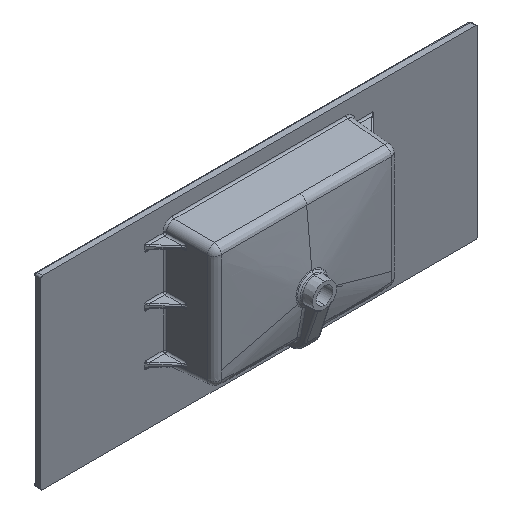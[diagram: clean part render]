
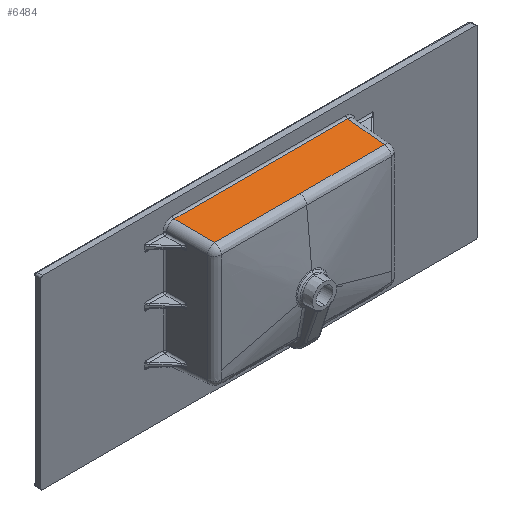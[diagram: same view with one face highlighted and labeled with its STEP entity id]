
A CAD part, isometric view. The second image highlights one B-rep face of the part: STEP entity #6484.
In plain terms, the highlighted planar face has unit normal (0, -0.052, 0.999).
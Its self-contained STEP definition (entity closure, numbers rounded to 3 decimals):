
#55 = AXIS2_PLACEMENT_3D ( 'NONE', #12898, #14367, #5364 ) ;
#57 = CARTESIAN_POINT ( 'NONE',  ( -187.028, -131.842, 208.104 ) ) ;
#182 = VERTEX_POINT ( 'NONE', #9492 ) ;
#1190 = CARTESIAN_POINT ( 'NONE',  ( 213.745, -131.714, 208.111 ) ) ;
#1235 = EDGE_CURVE ( 'NONE', #19137, #6876, #12952, .T. ) ;
#2342 = CARTESIAN_POINT ( 'NONE',  ( -240.041, -0.003, 215.014 ) ) ;
#2646 = CARTESIAN_POINT ( 'NONE',  ( 38.863, -131.909, 208.101 ) ) ;
#2836 = CARTESIAN_POINT ( 'NONE',  ( 155.452, -131.861, 208.103 ) ) ;
#2886 = EDGE_CURVE ( 'NONE', #5770, #182, #18364, .T. ) ;
#2933 = CARTESIAN_POINT ( 'NONE',  ( 77.726, -131.898, 208.101 ) ) ;
#2982 = CARTESIAN_POINT ( 'NONE',  ( -223.459, -131.459, 208.124 ) ) ;
#3174 = CARTESIAN_POINT ( 'NONE',  ( -155.452, -131.861, 208.103 ) ) ;
#3175 = B_SPLINE_CURVE_WITH_KNOTS ( 'NONE', 3,
 ( #10096, #2646, #2933, #17434, #2836, #5688, #19278, #16065, #11663, #7443, #17801, #19087, #14497, #1190, #17617, #8628, #7158, #10373 ),
 .UNSPECIFIED., .F., .F.,
 ( 4, 2, 2, 1, 1, 2, 2, 2, 2, 4 ),
 ( 0.233, 0.35, 0.408, 0.423, 0.43, 0.434, 0.437, 0.444, 0.452, 0.466 ),
 .UNSPECIFIED. ) ;
#4742 = CARTESIAN_POINT ( 'NONE',  ( -216.174, -131.658, 208.114 ) ) ;
#5364 = DIRECTION ( 'NONE',  ( 0., -0.999, -0.052 ) ) ;
#5421 = CARTESIAN_POINT ( 'NONE',  ( -250., -24.738, 213.717 ) ) ;
#5688 = CARTESIAN_POINT ( 'NONE',  ( 179.741, -131.846, 208.104 ) ) ;
#5770 = VERTEX_POINT ( 'NONE', #11610 ) ;
#5923 = CARTESIAN_POINT ( 'NONE',  ( -77.726, -131.898, 208.101 ) ) ;
#6019 = EDGE_CURVE ( 'NONE', #6876, #6665, #14384, .T. ) ;
#6103 = VECTOR ( 'NONE', #16706, 1000. ) ;
#6216 = CARTESIAN_POINT ( 'NONE',  ( 0., -131.909, 208.101 ) ) ;
#6484 = ADVANCED_FACE ( 'NONE', ( #18661 ), #15634, .T. ) ;
#6665 = VERTEX_POINT ( 'NONE', #8397 ) ;
#6876 = VERTEX_POINT ( 'NONE', #10531 ) ;
#7158 = CARTESIAN_POINT ( 'NONE',  ( 228.315, -131.288, 208.133 ) ) ;
#7443 = CARTESIAN_POINT ( 'NONE',  ( 201.602, -131.833, 208.105 ) ) ;
#7588 = CARTESIAN_POINT ( 'NONE',  ( -38.863, -131.909, 208.101 ) ) ;
#7684 = CARTESIAN_POINT ( 'NONE',  ( -195.529, -131.837, 208.104 ) ) ;
#8397 = CARTESIAN_POINT ( 'NONE',  ( -238.745, -24.738, 213.717 ) ) ;
#8530 = VECTOR ( 'NONE', #14325, 1000. ) ;
#8628 = CARTESIAN_POINT ( 'NONE',  ( 223.459, -131.459, 208.124 ) ) ;
#9492 = CARTESIAN_POINT ( 'NONE',  ( 238.745, -24.738, 213.717 ) ) ;
#10096 = CARTESIAN_POINT ( 'NONE',  ( 0., -131.909, 208.101 ) ) ;
#10112 = LINE ( 'NONE', #5421, #8530 ) ;
#10373 = CARTESIAN_POINT ( 'NONE',  ( 233.171, -131.089, 208.144 ) ) ;
#10403 = EDGE_LOOP ( 'NONE', ( #17317, #10871, #18588, #10843, #15618 ) ) ;
#10421 = CARTESIAN_POINT ( 'NONE',  ( -179.741, -131.846, 208.104 ) ) ;
#10531 = CARTESIAN_POINT ( 'NONE',  ( -233.171, -131.089, 208.144 ) ) ;
#10618 = CARTESIAN_POINT ( 'NONE',  ( -199.173, -131.835, 208.105 ) ) ;
#10843 = ORIENTED_EDGE ( 'NONE', *, *, #1235, .F. ) ;
#10871 = ORIENTED_EDGE ( 'NONE', *, *, #12722, .T. ) ;
#11072 = EDGE_CURVE ( 'NONE', #19137, #5770, #3175, .T. ) ;
#11610 = CARTESIAN_POINT ( 'NONE',  ( 233.171, -131.089, 208.144 ) ) ;
#11663 = CARTESIAN_POINT ( 'NONE',  ( 199.173, -131.835, 208.105 ) ) ;
#11900 = CARTESIAN_POINT ( 'NONE',  ( -136.02, -131.871, 208.103 ) ) ;
#12288 = CARTESIAN_POINT ( 'NONE',  ( -208.888, -131.798, 208.106 ) ) ;
#12311 = CARTESIAN_POINT ( 'NONE',  ( 240.041, -0.003, 215.014 ) ) ;
#12722 = EDGE_CURVE ( 'NONE', #182, #6665, #10112, .T. ) ;
#12898 = CARTESIAN_POINT ( 'NONE',  ( -250., -0.523, 214.986 ) ) ;
#12952 = B_SPLINE_CURVE_WITH_KNOTS ( 'NONE', 3,
 ( #6216, #7588, #5923, #11900, #3174, #10421, #57, #7684, #10618, #18242, #15022, #15218, #12288, #16395, #4742, #2982, #13752, #16585 ),
 .UNSPECIFIED., .F., .F.,
 ( 4, 2, 2, 1, 1, 2, 2, 2, 2, 4 ),
 ( 0.233, 0.35, 0.408, 0.423, 0.43, 0.434, 0.437, 0.444, 0.452, 0.466 ),
 .UNSPECIFIED. ) ;
#13752 = CARTESIAN_POINT ( 'NONE',  ( -228.315, -131.288, 208.133 ) ) ;
#14090 = DIRECTION ( 'NONE',  ( -0.052, 0.997, 0.052 ) ) ;
#14325 = DIRECTION ( 'NONE',  ( -1., 0., 0. ) ) ;
#14367 = DIRECTION ( 'NONE',  ( 0., -0.052, 0.999 ) ) ;
#14384 = LINE ( 'NONE', #2342, #15689 ) ;
#14497 = CARTESIAN_POINT ( 'NONE',  ( 208.888, -131.798, 208.106 ) ) ;
#15022 = CARTESIAN_POINT ( 'NONE',  ( -202.816, -131.834, 208.105 ) ) ;
#15218 = CARTESIAN_POINT ( 'NONE',  ( -206.459, -131.827, 208.105 ) ) ;
#15618 = ORIENTED_EDGE ( 'NONE', *, *, #11072, .T. ) ;
#15634 = PLANE ( 'NONE',  #55 ) ;
#15689 = VECTOR ( 'NONE', #14090, 1000. ) ;
#16065 = CARTESIAN_POINT ( 'NONE',  ( 195.529, -131.837, 208.104 ) ) ;
#16395 = CARTESIAN_POINT ( 'NONE',  ( -213.745, -131.714, 208.111 ) ) ;
#16585 = CARTESIAN_POINT ( 'NONE',  ( -233.171, -131.089, 208.144 ) ) ;
#16706 = DIRECTION ( 'NONE',  ( 0.052, 0.997, 0.052 ) ) ;
#17317 = ORIENTED_EDGE ( 'NONE', *, *, #2886, .T. ) ;
#17434 = CARTESIAN_POINT ( 'NONE',  ( 136.02, -131.871, 208.103 ) ) ;
#17617 = CARTESIAN_POINT ( 'NONE',  ( 216.174, -131.658, 208.114 ) ) ;
#17801 = CARTESIAN_POINT ( 'NONE',  ( 202.816, -131.834, 208.105 ) ) ;
#18242 = CARTESIAN_POINT ( 'NONE',  ( -201.602, -131.833, 208.105 ) ) ;
#18364 = LINE ( 'NONE', #12311, #6103 ) ;
#18588 = ORIENTED_EDGE ( 'NONE', *, *, #6019, .F. ) ;
#18661 = FACE_OUTER_BOUND ( 'NONE', #10403, .T. ) ;
#18916 = CARTESIAN_POINT ( 'NONE',  ( 0., -131.909, 208.101 ) ) ;
#19087 = CARTESIAN_POINT ( 'NONE',  ( 206.459, -131.827, 208.105 ) ) ;
#19137 = VERTEX_POINT ( 'NONE', #18916 ) ;
#19278 = CARTESIAN_POINT ( 'NONE',  ( 187.028, -131.842, 208.104 ) ) ;
